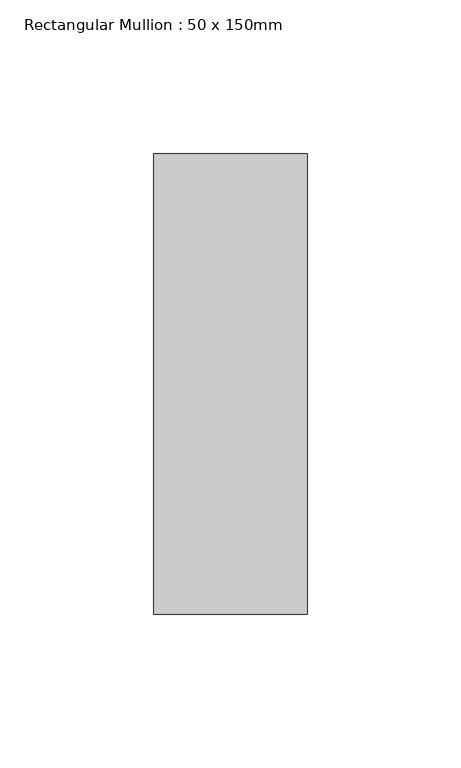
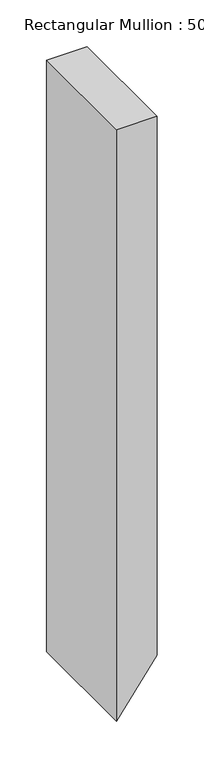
"""IFC4 building model written with IfcOpenShell, lengths in millimetres: member geometry, Rectangular Mullion : 50 x 150mm."""

import ifcopenshell
import ifcopenshell.guid

model = None  # the IFC model being written
_history = None  # IfcOwnerHistory: only IFC2X3 demands one
_inside = {}  # id of a spatial element -> (the spatial element, [elements in it])
_under = {}  # id of a project, library or spatial element -> (it, [spatial elements below it])
_declared = {}  # id of a project -> (the project, [libraries it declares])
_typed = {}  # id of a type object -> (the type object, [elements of that type])
_made_of = {}  # id of a material, layer set ... -> (it, [elements and type objects made of it])


def new_model(schema):
    """Start an empty IFC model of exactly this schema.

    Asked for "IFC4X3", IfcOpenShell would pick the latest addendum, in which some entities
    have other attributes; the version numbers below select the first issue.
    IFC2X3 requires an IfcOwnerHistory on every rooted entity: one is made here for all.
    """
    global model, _history
    if schema == "IFC4X3":
        model = ifcopenshell.file(schema_version=(4, 3, 0, 0))
    else:
        model = ifcopenshell.file(schema=schema)
    _inside.clear()
    _under.clear()
    _declared.clear()
    _typed.clear()
    _made_of.clear()
    _history = None
    if model.schema == "IFC2X3":
        org = make("IfcOrganization", Name="unknown")
        user = make(
            "IfcPersonAndOrganization",
            ThePerson=make("IfcPerson", FamilyName="unknown"),
            TheOrganization=org,
        )
        app = make(
            "IfcApplication",
            ApplicationDeveloper=org,
            Version="unknown",
            ApplicationFullName="unknown",
            ApplicationIdentifier="unknown",
        )
        _history = make(
            "IfcOwnerHistory",
            OwningUser=user,
            OwningApplication=app,
            ChangeAction="ADDED",
            CreationDate=0,
        )
    return model


def make(cls, **values):
    """One entity of the class cls with the attributes given. An attribute that is None is left unset."""
    return model.create_entity(
        cls, **{name: value for name, value in values.items() if value is not None}
    )


def rooted(cls, **values):
    """An entity with a GlobalId (a new one), such as an element, a storey or a relation."""
    return make(cls, GlobalId=ifcopenshell.guid.new(), OwnerHistory=_history, **values)


def si_unit(unit_type, name, prefix=None):
    """IfcSIUnit, for example si_unit("LENGTHUNIT", "METRE", prefix="MILLI")."""
    return make("IfcSIUnit", UnitType=unit_type, Prefix=prefix, Name=name)


def assignment(units):
    """IfcUnitAssignment: the units of a project."""
    return None if units is None else make("IfcUnitAssignment", Units=units)


def point(xyz):
    """IfcCartesianPoint."""
    return None if xyz is None else make("IfcCartesianPoint", Coordinates=xyz)


def direction(xyz):
    """IfcDirection."""
    return None if xyz is None else make("IfcDirection", DirectionRatios=xyz)


def frame(location, z_axis=None, x_axis=None):
    """IfcAxis2Placement3D, a coordinate frame: its origin and axes. An axis left out is left unset."""
    return make(
        "IfcAxis2Placement3D",
        Location=point(location),
        Axis=direction(z_axis),
        RefDirection=direction(x_axis),
    )


def origin():
    """The frame at (0, 0, 0) with its axes left unset."""
    return frame((0.0, 0.0, 0.0))


def place(relative_to, where):
    """IfcLocalPlacement: puts the frame where relative to a parent placement (None: the world)."""
    return make(
        "IfcLocalPlacement", PlacementRelTo=relative_to, RelativePlacement=where
    )


def context(
    kind, dimensions, precision=None, world=None, true_north=None, identifier=None
):
    """IfcGeometricRepresentationContext, for example the 3D "Model" context."""
    return make(
        "IfcGeometricRepresentationContext",
        ContextIdentifier=identifier,
        ContextType=kind,
        CoordinateSpaceDimension=dimensions,
        Precision=precision,
        WorldCoordinateSystem=world,
        TrueNorth=true_north,
    )


def project(units=None, contexts=None):
    """IfcProject with its units and contexts."""
    return rooted(
        "IfcProject",
        Name="project",
        RepresentationContexts=contexts,
        UnitsInContext=assignment(units),
    )


def spatial(cls, under=None, at=None, **own):
    """A site, building, storey or space (cls), placed at a placement, below another one or the project."""
    s = rooted(cls, ObjectPlacement=at, **own)
    if under is not None:
        _under.setdefault(under.id(), (under, []))[1].append(s)
    return s


def polyline(points):
    """IfcPolyline through the points."""
    return make("IfcPolyline", Points=[point(p) for p in points])


def outline(outer, holes=None, kind="AREA"):
    """IfcArbitraryClosedProfileDef: a profile drawn as a closed curve; with holes, ...WithVoids."""
    if holes is None:
        return make("IfcArbitraryClosedProfileDef", ProfileType=kind, OuterCurve=outer)
    return make(
        "IfcArbitraryProfileDefWithVoids",
        ProfileType=kind,
        OuterCurve=outer,
        InnerCurves=holes,
    )


def extrude(swept, where, along, depth):
    """IfcExtrudedAreaSolid: the profile swept, set in the frame where, extruded along a direction by depth."""
    return make(
        "IfcExtrudedAreaSolid",
        SweptArea=swept,
        Position=where,
        ExtrudedDirection=direction(along),
        Depth=depth,
    )


def shape(context_of_items, identifier, shape_type, items):
    """IfcShapeRepresentation: the items that make up one representation, for example the "Body"."""
    return make(
        "IfcShapeRepresentation",
        ContextOfItems=context_of_items,
        RepresentationIdentifier=identifier,
        RepresentationType=shape_type,
        Items=items,
    )


def source(mapping_origin, context_of_items, identifier, shape_type, items):
    """IfcRepresentationMap: a shape defined once, which mapped items show again and again."""
    return make(
        "IfcRepresentationMap",
        MappingOrigin=mapping_origin,
        MappedRepresentation=shape(context_of_items, identifier, shape_type, items),
    )


def transform(
    local_origin,
    x_axis=None,
    y_axis=None,
    z_axis=None,
    scale=None,
    scale2=None,
    scale3=None,
    uniform=True,
):
    """IfcCartesianTransformationOperator3D, or its non-uniform kind. x_axis, y_axis, z_axis: its Axis1, 2, 3."""
    if uniform:
        return make(
            "IfcCartesianTransformationOperator3D",
            Axis1=direction(x_axis),
            Axis2=direction(y_axis),
            LocalOrigin=point(local_origin),
            Scale=scale,
            Axis3=direction(z_axis),
        )
    return make(
        "IfcCartesianTransformationOperator3DnonUniform",
        Axis1=direction(x_axis),
        Axis2=direction(y_axis),
        LocalOrigin=point(local_origin),
        Scale=scale,
        Axis3=direction(z_axis),
        Scale2=scale2,
        Scale3=scale3,
    )


def mapped(mapping_source, mapping_target):
    """IfcMappedItem: shows the shape of a source again, moved by a transform."""
    return make(
        "IfcMappedItem", MappingSource=mapping_source, MappingTarget=mapping_target
    )


def made_of(thing, what):
    """Note that an element or type object is made of a material, layer set ...; save() writes the relation."""
    if what is not None:
        _made_of.setdefault(what.id(), (what, []))[1].append(thing)
    return thing


def element(
    cls,
    number,
    at=None,
    inside=None,
    cuts=None,
    type_object=None,
    material=None,
    context=None,
    identifier="Body",
    shape_type=None,
    held_by="IfcProductDefinitionShape",
    body=None,
    shapes=None,
    **own,
):
    """One element of the class cls, such as IfcWall. Its Tag is "e" and its number.

    at: its placement. inside: the storey or other place that contains it. cuts: it is an
    opening in that element (IfcRelVoidsElement). A single representation is given by context,
    identifier, shape_type and body (its items); several are given by shapes. held_by: the class
    of the entity that holds the representations. save() writes the other relations.
    """
    e = rooted(cls, Tag="e%d" % number, ObjectPlacement=at, **own)
    if body is not None:
        shapes = [shape(context, identifier, shape_type, body)]
    if shapes is not None:
        e.Representation = make(held_by, Representations=shapes)
    if inside is not None:
        _inside.setdefault(inside.id(), (inside, []))[1].append(e)
    if cuts is not None:
        rooted(
            "IfcRelVoidsElement", RelatingBuildingElement=cuts, RelatedOpeningElement=e
        )
    if type_object is not None:
        _typed.setdefault(type_object.id(), (type_object, []))[1].append(e)
    return made_of(e, material)


def aggregate(whole, parts):
    """IfcRelAggregates: a whole, such as a stair, and the parts it consists of."""
    return rooted("IfcRelAggregates", RelatingObject=whole, RelatedObjects=parts)


def save(model, path):
    """Write the relations noted so far, then the file.

    IfcRelAggregates (storeys below a building ...), IfcRelContainedInSpatialStructure (elements
    in a storey), IfcRelDefinesByType, IfcRelAssociatesMaterial and IfcRelDeclares: one each for
    every whole, place, type object, material and project.
    """
    for whole, parts in _under.values():
        aggregate(whole, parts)
    for where, things in _inside.values():
        rooted(
            "IfcRelContainedInSpatialStructure",
            RelatedElements=things,
            RelatingStructure=where,
        )
    for kind, things in _typed.values():
        rooted("IfcRelDefinesByType", RelatedObjects=things, RelatingType=kind)
    for what, things in _made_of.values():
        rooted("IfcRelAssociatesMaterial", RelatedObjects=things, RelatingMaterial=what)
    for by, libraries in _declared.values():
        rooted("IfcRelDeclares", RelatingContext=by, RelatedDefinitions=libraries)
    model.write(path)


def rectangular_mullion_50_x_150mm_dfeac2ca(model_context):
    return source(origin(), model_context, "Body", "SweptSolid", [
        extrude(outline(polyline([(0.0, 25.0), (0.0, -25.0), (-771.856623, -25.0), (-703.037527, 25.0), (0.0, 25.0)])), frame((0.0, -75.0, 0.0), z_axis=(0.0, 1.0, 0.0), x_axis=(0.0, 0.0, 1.0)), (0.0, 0.0, 1.0), 150.0),
    ])


if __name__ == "__main__":
    model = new_model("IFC4")
    model_context = context("Model", 3, world=origin())
    ifc_project = project(units=[si_unit("LENGTHUNIT", "METRE", prefix="MILLI")], contexts=[model_context])
    site = spatial("IfcSite", under=ifc_project)
    building = spatial("IfcBuilding", under=site)
    placement = place(None, origin())
    rectangular_mullion_50_x_150mm_shape = rectangular_mullion_50_x_150mm_dfeac2ca(model_context)
    element("IfcMember", 1, ObjectType="Rectangular Mullion : 50 x 150mm", at=placement, inside=building, context=model_context, shape_type="MappedRepresentation", body=[
        mapped(rectangular_mullion_50_x_150mm_shape, transform((0.0, 0.0, 0.0), x_axis=(1.0, 0.0, 0.0), y_axis=(0.0, 1.0, 0.0), z_axis=(0.0, 0.0, 1.0))),
    ])
    save(model, "model.ifc")
